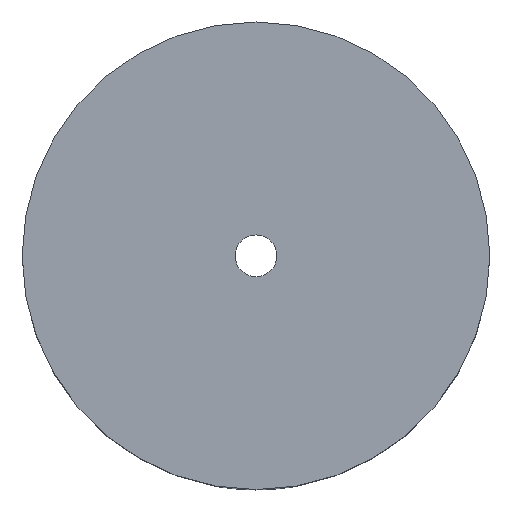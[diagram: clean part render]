
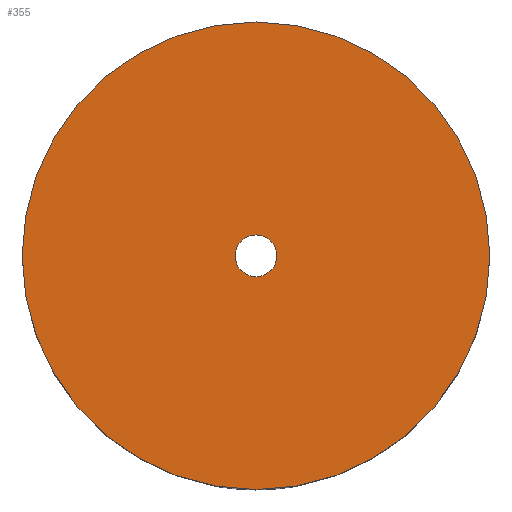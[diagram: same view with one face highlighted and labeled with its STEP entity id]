
A CAD part, top view. The second image highlights one B-rep face of the part: STEP entity #355.
In plain terms, the highlighted planar face has unit normal (0, 0, 1).
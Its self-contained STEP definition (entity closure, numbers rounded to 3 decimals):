
#4 = ORIENTED_EDGE ( 'NONE', *, *, #35, .F. ) ;
#9 = CARTESIAN_POINT ( 'NONE',  ( 14., 0., 0. ) ) ;
#10 = AXIS2_PLACEMENT_3D ( 'NONE', #109, #245, #24 ) ;
#24 = DIRECTION ( 'NONE',  ( 1., 0., 0. ) ) ;
#26 = CARTESIAN_POINT ( 'NONE',  ( -1.25, 0., 0. ) ) ;
#28 = CARTESIAN_POINT ( 'NONE',  ( 0., 0., 0. ) ) ;
#30 = CARTESIAN_POINT ( 'NONE',  ( -14., 0., 0. ) ) ;
#32 = EDGE_LOOP ( 'NONE', ( #51, #559 ) ) ;
#35 = EDGE_CURVE ( 'NONE', #279, #94, #473, .T. ) ;
#51 = ORIENTED_EDGE ( 'NONE', *, *, #484, .T. ) ;
#60 = CARTESIAN_POINT ( 'NONE',  ( 0., 0., 0. ) ) ;
#71 = DIRECTION ( 'NONE',  ( 1., 0., 0. ) ) ;
#94 = VERTEX_POINT ( 'NONE', #26 ) ;
#109 = CARTESIAN_POINT ( 'NONE',  ( 0., 0., 0. ) ) ;
#112 = CARTESIAN_POINT ( 'NONE',  ( 0., -1.25, 0. ) ) ;
#132 = EDGE_CURVE ( 'NONE', #351, #316, #524, .T. ) ;
#158 = DIRECTION ( 'NONE',  ( 1., 0., 0. ) ) ;
#163 = AXIS2_PLACEMENT_3D ( 'NONE', #504, #205, #71 ) ;
#179 = CIRCLE ( 'NONE', #163, 14. ) ;
#195 = DIRECTION ( 'NONE',  ( 0., 0., 1. ) ) ;
#205 = DIRECTION ( 'NONE',  ( 0., 0., 1. ) ) ;
#206 = FACE_BOUND ( 'NONE', #422, .T. ) ;
#245 = DIRECTION ( 'NONE',  ( 0., 0., 1. ) ) ;
#252 = DIRECTION ( 'NONE',  ( 0., 0., 1. ) ) ;
#279 = VERTEX_POINT ( 'NONE', #281 ) ;
#281 = CARTESIAN_POINT ( 'NONE',  ( 1.25, 0., 0. ) ) ;
#292 = CIRCLE ( 'NONE', #10, 1.25 ) ;
#316 = VERTEX_POINT ( 'NONE', #9 ) ;
#340 = DIRECTION ( 'NONE',  ( 1., 0., 0. ) ) ;
#351 = VERTEX_POINT ( 'NONE', #30 ) ;
#355 = ADVANCED_FACE ( 'NONE', ( #392, #206 ), #505, .T. ) ;
#359 = ORIENTED_EDGE ( 'NONE', *, *, #413, .F. ) ;
#392 = FACE_OUTER_BOUND ( 'NONE', #32, .T. ) ;
#413 = EDGE_CURVE ( 'NONE', #94, #279, #292, .T. ) ;
#422 = EDGE_LOOP ( 'NONE', ( #359, #4 ) ) ;
#451 = AXIS2_PLACEMENT_3D ( 'NONE', #112, #545, #541 ) ;
#473 = CIRCLE ( 'NONE', #617, 1.25 ) ;
#484 = EDGE_CURVE ( 'NONE', #316, #351, #179, .T. ) ;
#504 = CARTESIAN_POINT ( 'NONE',  ( 0., 0., 0. ) ) ;
#505 = PLANE ( 'NONE',  #451 ) ;
#514 = AXIS2_PLACEMENT_3D ( 'NONE', #60, #195, #340 ) ;
#524 = CIRCLE ( 'NONE', #514, 14. ) ;
#541 = DIRECTION ( 'NONE',  ( 1., 0., 0. ) ) ;
#545 = DIRECTION ( 'NONE',  ( 0., 0., 1. ) ) ;
#559 = ORIENTED_EDGE ( 'NONE', *, *, #132, .T. ) ;
#617 = AXIS2_PLACEMENT_3D ( 'NONE', #28, #252, #158 ) ;
